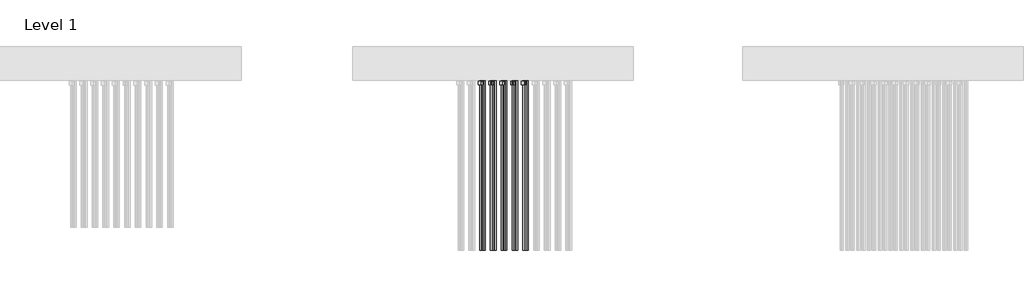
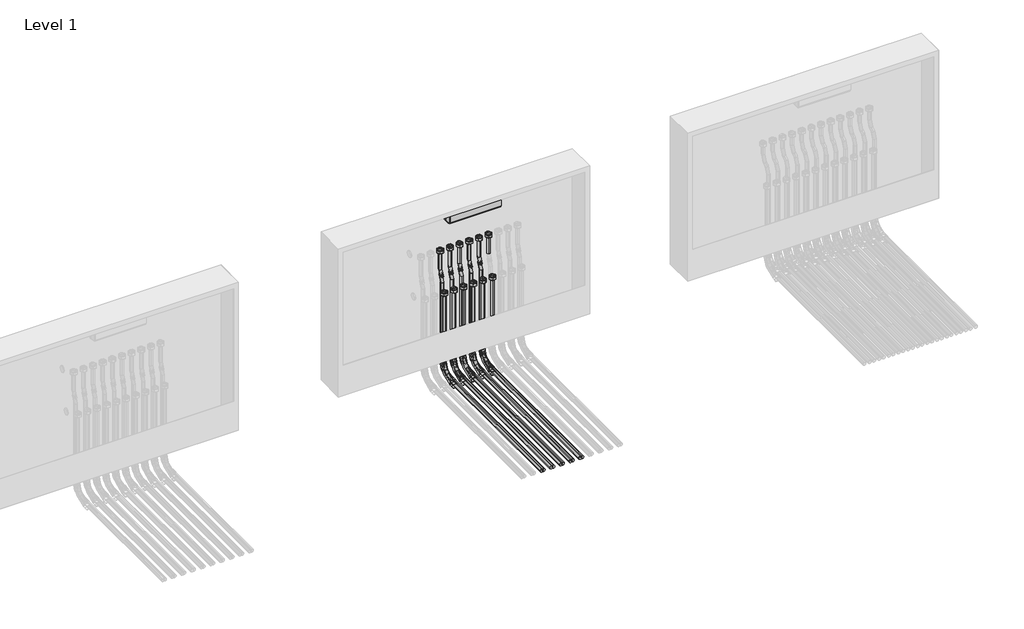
# One storey, part 12 of 15: 42 pipe fittings, 32 pipe segments, 1 proxy.
"""IFC4 building model written with IfcOpenShell, lengths in millimetres."""

from ifc_helpers import new_model, si_unit, point, frame, frame_2d, origin, place, context, project, spatial, circle_curve, trimmed, segment, composite_curve, outline, extrude, transform, mapped, element, save
from components import mechanical_equipment_387b3563, pipe_fitting_b05a7e06, pipe_fitting_27357a6d, pipe_fitting_daada113, pipe_fitting_3e503640

model = new_model("IFC4")

# Units and contexts
model_context = context("Model", 3, world=origin())
ifc_project = project(units=[si_unit("LENGTHUNIT", "METRE", prefix="MILLI")], contexts=[model_context])

# Site, building, storey
site = spatial("IfcSite", under=ifc_project)
building = spatial("IfcBuilding", under=site)
storey = spatial("IfcBuildingStorey", under=building, Name="Level 1", Elevation=0.0)

# Proxy
placement = place(None, origin())
mechanical_equipment_shape = mechanical_equipment_387b3563(model_context)
element("IfcBuildingElementProxy", 1, Name="USYSTEMS_Контроллер UH-6 230В1 : Контроллер UH-6 230В 2", ObjectType="USYSTEMS_Контроллер UH-6 230В1 : Контроллер UH-6 230В 2", at=placement, inside=storey, context=model_context, shape_type="MappedRepresentation", body=[
    mapped(mechanical_equipment_shape, transform((15172.5924746, 3891.6469543, 729.375), x_axis=(1.0, 0.0, 0.0), y_axis=(0.0, 1.0, 0.0), z_axis=(0.0, 0.0, 1.0))),
])

# Pipe fittings
pipe_fitting_shape = pipe_fitting_b05a7e06(model_context)
element("IfcPipeFitting", 2, ObjectType="USYSTEMS_УгловойФиксатор_Multi : Угловой фиксатор", at=placement, inside=storey, context=model_context, shape_type="MappedRepresentation", body=[
    mapped(pipe_fitting_shape, transform((15004.1980115, 3819.7097764, -114.3211479), x_axis=(0.0, 0.0, -1.0), y_axis=(0.0, -1.0, 0.0), z_axis=(-1.0, 0.0, 0.0))),
])
element("IfcPipeFitting", 3, ObjectType="USYSTEMS_УгловойФиксатор_Multi : Угловой фиксатор", at=placement, inside=storey, context=model_context, shape_type="MappedRepresentation", body=[
    mapped(pipe_fitting_shape, transform((15014.283768, 3855.7097764, -114.3211479), x_axis=(0.0, 0.0, -1.0), y_axis=(0.0, -1.0, 0.0), z_axis=(-1.0, 0.0, 0.0))),
])
element("IfcPipeFitting", 4, ObjectType="USYSTEMS_УгловойФиксатор_Multi : Угловой фиксатор", at=placement, inside=storey, context=model_context, shape_type="MappedRepresentation", body=[
    mapped(pipe_fitting_shape, transform((15054.1980115, 3819.7094543, -114.3211479), x_axis=(0.0, 0.0, -1.0), y_axis=(0.0, -1.0, 0.0), z_axis=(-1.0, 0.0, 0.0))),
])
element("IfcPipeFitting", 5, ObjectType="USYSTEMS_УгловойФиксатор_Multi : Угловой фиксатор", at=placement, inside=storey, context=model_context, shape_type="MappedRepresentation", body=[
    mapped(pipe_fitting_shape, transform((15064.283768, 3855.7097764, -114.3211479), x_axis=(0.0, 0.0, -1.0), y_axis=(0.0, -1.0, 0.0), z_axis=(-1.0, 0.0, 0.0))),
])
element("IfcPipeFitting", 6, ObjectType="USYSTEMS_УгловойФиксатор_Multi : Угловой фиксатор", at=placement, inside=storey, context=model_context, shape_type="MappedRepresentation", body=[
    mapped(pipe_fitting_shape, transform((15104.1980115, 3819.7097764, -114.3211479), x_axis=(0.0, 0.0, -1.0), y_axis=(0.0, -1.0, 0.0), z_axis=(-1.0, 0.0, 0.0))),
])
element("IfcPipeFitting", 7, ObjectType="USYSTEMS_УгловойФиксатор_Multi : Угловой фиксатор", at=placement, inside=storey, context=model_context, shape_type="MappedRepresentation", body=[
    mapped(pipe_fitting_shape, transform((15114.283768, 3855.7094543, -114.3211479), x_axis=(0.0, 0.0, -1.0), y_axis=(0.0, -1.0, 0.0), z_axis=(-1.0, 0.0, 0.0))),
])
element("IfcPipeFitting", 8, ObjectType="USYSTEMS_УгловойФиксатор_Multi : Угловой фиксатор", at=placement, inside=storey, context=model_context, shape_type="MappedRepresentation", body=[
    mapped(pipe_fitting_shape, transform((15154.1980115, 3819.7094543, -114.3211479), x_axis=(0.0, 0.0, -1.0), y_axis=(0.0, -1.0, 0.0), z_axis=(-1.0, 0.0, 0.0))),
])
element("IfcPipeFitting", 9, ObjectType="USYSTEMS_УгловойФиксатор_Multi : Угловой фиксатор", at=placement, inside=storey, context=model_context, shape_type="MappedRepresentation", body=[
    mapped(pipe_fitting_shape, transform((15164.283768, 3855.7097764, -114.3211479), x_axis=(0.0, 0.0, -1.0), y_axis=(0.0, -1.0, 0.0), z_axis=(-1.0, 0.0, 0.0))),
])
element("IfcPipeFitting", 10, ObjectType="USYSTEMS_УгловойФиксатор_Multi : Угловой фиксатор", at=placement, inside=storey, context=model_context, shape_type="MappedRepresentation", body=[
    mapped(pipe_fitting_shape, transform((15204.1980115, 3819.7097764, -114.3211479), x_axis=(0.0, 0.0, -1.0), y_axis=(0.0, -1.0, 0.0), z_axis=(-1.0, 0.0, 0.0))),
])
element("IfcPipeFitting", 11, ObjectType="USYSTEMS_УгловойФиксатор_Multi : Угловой фиксатор", at=placement, inside=storey, context=model_context, shape_type="MappedRepresentation", body=[
    mapped(pipe_fitting_shape, transform((15214.283768, 3855.7094543, -114.3211479), x_axis=(0.0, 0.0, -1.0), y_axis=(0.0, -1.0, 0.0), z_axis=(-1.0, 0.0, 0.0))),
])
pipe_fitting_2_shape = pipe_fitting_27357a6d(model_context)
element("IfcPipeFitting", 12, ObjectType="USYSTEMS_Штуцер с внутренней резьбой_FlexX_PEX : 16x2,0 x 3/4\" ВР Евроконус", at=placement, inside=storey, context=model_context, shape_type="MappedRepresentation", body=[
    mapped(pipe_fitting_2_shape, transform((15004.1980115, 3819.7099144, 328.3084133), x_axis=(0.0, 0.0, 1.0), y_axis=(0.0, 1.0, 0.0), z_axis=(-1.0, 0.0, 0.0))),
])
element("IfcPipeFitting", 13, ObjectType="USYSTEMS_Штуцер с внутренней резьбой_FlexX_PEX : 16x2,0 x 3/4\" ВР Евроконус", at=placement, inside=storey, context=model_context, shape_type="MappedRepresentation", body=[
    mapped(pipe_fitting_2_shape, transform((15004.1980115, 3855.7099144, 538.3084133), x_axis=(0.0, 0.0, 1.0), y_axis=(0.0, 1.0, 0.0), z_axis=(-1.0, 0.0, 0.0))),
])
element("IfcPipeFitting", 14, ObjectType="USYSTEMS_Штуцер с внутренней резьбой_FlexX_PEX : 16x2,0 x 3/4\" ВР Евроконус", at=placement, inside=storey, context=model_context, shape_type="MappedRepresentation", body=[
    mapped(pipe_fitting_2_shape, transform((15054.1980115, 3819.7099144, 328.3084133), x_axis=(0.0, 0.0, 1.0), y_axis=(0.0, 1.0, 0.0), z_axis=(-1.0, 0.0, 0.0))),
])
element("IfcPipeFitting", 15, ObjectType="USYSTEMS_Штуцер с внутренней резьбой_FlexX_PEX : 16x2,0 x 3/4\" ВР Евроконус", at=placement, inside=storey, context=model_context, shape_type="MappedRepresentation", body=[
    mapped(pipe_fitting_2_shape, transform((15054.1980115, 3855.7099144, 538.3084133), x_axis=(0.0, 0.0, 1.0), y_axis=(0.0, 1.0, 0.0), z_axis=(-1.0, 0.0, 0.0))),
])
element("IfcPipeFitting", 16, ObjectType="USYSTEMS_Штуцер с внутренней резьбой_FlexX_PEX : 16x2,0 x 3/4\" ВР Евроконус", at=placement, inside=storey, context=model_context, shape_type="MappedRepresentation", body=[
    mapped(pipe_fitting_2_shape, transform((15104.1980115, 3819.7099144, 328.3084133), x_axis=(0.0, 0.0, 1.0), y_axis=(0.0, 1.0, 0.0), z_axis=(-1.0, 0.0, 0.0))),
])
element("IfcPipeFitting", 17, ObjectType="USYSTEMS_Штуцер с внутренней резьбой_FlexX_PEX : 16x2,0 x 3/4\" ВР Евроконус", at=placement, inside=storey, context=model_context, shape_type="MappedRepresentation", body=[
    mapped(pipe_fitting_2_shape, transform((15104.1980115, 3855.7099144, 538.3084133), x_axis=(0.0, 0.0, 1.0), y_axis=(0.0, 1.0, 0.0), z_axis=(-1.0, 0.0, 0.0))),
])
element("IfcPipeFitting", 18, ObjectType="USYSTEMS_Штуцер с внутренней резьбой_FlexX_PEX : 16x2,0 x 3/4\" ВР Евроконус", at=placement, inside=storey, context=model_context, shape_type="MappedRepresentation", body=[
    mapped(pipe_fitting_2_shape, transform((15154.1980115, 3819.7099144, 328.3084133), x_axis=(0.0, 0.0, 1.0), y_axis=(0.0, 1.0, 0.0), z_axis=(-1.0, 0.0, 0.0))),
])
element("IfcPipeFitting", 19, ObjectType="USYSTEMS_Штуцер с внутренней резьбой_FlexX_PEX : 16x2,0 x 3/4\" ВР Евроконус", at=placement, inside=storey, context=model_context, shape_type="MappedRepresentation", body=[
    mapped(pipe_fitting_2_shape, transform((15154.1980115, 3855.7099144, 538.3084133), x_axis=(0.0, 0.0, 1.0), y_axis=(0.0, 1.0, 0.0), z_axis=(-1.0, 0.0, 0.0))),
])
element("IfcPipeFitting", 20, ObjectType="USYSTEMS_Штуцер с внутренней резьбой_FlexX_PEX : 16x2,0 x 3/4\" ВР Евроконус", at=placement, inside=storey, context=model_context, shape_type="MappedRepresentation", body=[
    mapped(pipe_fitting_2_shape, transform((15204.1980115, 3819.7099144, 328.3084133), x_axis=(0.0, 0.0, 1.0), y_axis=(0.0, 1.0, 0.0), z_axis=(-1.0, 0.0, 0.0))),
])
element("IfcPipeFitting", 21, ObjectType="USYSTEMS_Штуцер с внутренней резьбой_FlexX_PEX : 16x2,0 x 3/4\" ВР Евроконус", at=placement, inside=storey, context=model_context, shape_type="MappedRepresentation", body=[
    mapped(pipe_fitting_2_shape, transform((15204.1980115, 3855.7099144, 538.3084133), x_axis=(0.0, 0.0, 1.0), y_axis=(0.0, 1.0, 0.0), z_axis=(-1.0, 0.0, 0.0))),
])
element("IfcPipeFitting", 22, ObjectType="USYSTEMS_Штуцер с внутренней резьбой_FlexX_PEX : 16x2,0 x 3/4\" ВР Евроконус", at=placement, inside=storey, context=model_context, shape_type="MappedRepresentation", body=[
    mapped(pipe_fitting_2_shape, transform((15254.1980115, 3819.7099144, 328.3084133), x_axis=(0.0, 0.0, 1.0), y_axis=(0.0, 1.0, 0.0), z_axis=(-1.0, 0.0, 0.0))),
])
element("IfcPipeFitting", 23, ObjectType="USYSTEMS_Штуцер с внутренней резьбой_FlexX_PEX : 16x2,0 x 3/4\" ВР Евроконус", at=placement, inside=storey, context=model_context, shape_type="MappedRepresentation", body=[
    mapped(pipe_fitting_2_shape, transform((15254.1980115, 3855.7099144, 538.3084133), x_axis=(0.0, 0.0, 1.0), y_axis=(0.0, 1.0, 0.0), z_axis=(-1.0, 0.0, 0.0))),
])
pipe_fitting_3_shape = pipe_fitting_daada113(model_context)
element("IfcPipeFitting", 24, ObjectType="USYSTEMS_Гнутая труба_Radi Pipe : PN 6 в бухтах", at=placement, inside=storey, context=model_context, shape_type="MappedRepresentation", body=[
    mapped(pipe_fitting_3_shape, transform((15004.1980115, 3855.7096864, 414.5388211), x_axis=(0.0, 0.0, -1.0), y_axis=(1.0, 0.0, 0.0), z_axis=(0.0, -1.0, 0.0))),
])
element("IfcPipeFitting", 25, ObjectType="USYSTEMS_Гнутая труба_Radi Pipe : PN 6 в бухтах", at=placement, inside=storey, context=model_context, shape_type="MappedRepresentation", body=[
    mapped(pipe_fitting_3_shape, transform((15014.283768, 3855.7097764, 388.2645272), x_axis=(0.3583679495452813, 0.0, -0.9335804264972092), y_axis=(-0.9335804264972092, 0.0, -0.3583679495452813), z_axis=(0.0, 1.0, 0.0))),
])
element("IfcPipeFitting", 26, ObjectType="USYSTEMS_Гнутая труба_Radi Pipe : PN 6 в бухтах", at=placement, inside=storey, context=model_context, shape_type="MappedRepresentation", body=[
    mapped(pipe_fitting_3_shape, transform((15054.1980115, 3855.7096864, 414.5388211), x_axis=(0.0, 0.0, -1.0), y_axis=(1.0, 0.0, 0.0), z_axis=(0.0, -1.0, 0.0))),
])
element("IfcPipeFitting", 27, ObjectType="USYSTEMS_Гнутая труба_Radi Pipe : PN 6 в бухтах", at=placement, inside=storey, context=model_context, shape_type="MappedRepresentation", body=[
    mapped(pipe_fitting_3_shape, transform((15064.283768, 3855.7097764, 388.2645272), x_axis=(0.3583679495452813, 0.0, -0.9335804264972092), y_axis=(-0.9335804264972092, 0.0, -0.3583679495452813), z_axis=(0.0, 1.0, 0.0))),
])
element("IfcPipeFitting", 28, ObjectType="USYSTEMS_Гнутая труба_Radi Pipe : PN 6 в бухтах", at=placement, inside=storey, context=model_context, shape_type="MappedRepresentation", body=[
    mapped(pipe_fitting_3_shape, transform((15104.1980115, 3855.7091545, 414.5388211), x_axis=(0.0, 0.0, -1.0), y_axis=(1.0, 0.0, 0.0), z_axis=(0.0, -1.0, 0.0))),
])
element("IfcPipeFitting", 29, ObjectType="USYSTEMS_Гнутая труба_Radi Pipe : PN 6 в бухтах", at=placement, inside=storey, context=model_context, shape_type="MappedRepresentation", body=[
    mapped(pipe_fitting_3_shape, transform((15114.283768, 3855.7094543, 388.2645272), x_axis=(0.3583679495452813, 0.0, -0.9335804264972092), y_axis=(-0.9335804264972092, 0.0, -0.3583679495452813), z_axis=(0.0, 1.0, 0.0))),
])
element("IfcPipeFitting", 30, ObjectType="USYSTEMS_Гнутая труба_Radi Pipe : PN 6 в бухтах", at=placement, inside=storey, context=model_context, shape_type="MappedRepresentation", body=[
    mapped(pipe_fitting_3_shape, transform((15154.1980115, 3855.7096864, 414.5388211), x_axis=(0.0, 0.0, -1.0), y_axis=(1.0, 0.0, 0.0), z_axis=(0.0, -1.0, 0.0))),
])
element("IfcPipeFitting", 31, ObjectType="USYSTEMS_Гнутая труба_Radi Pipe : PN 6 в бухтах", at=placement, inside=storey, context=model_context, shape_type="MappedRepresentation", body=[
    mapped(pipe_fitting_3_shape, transform((15164.283768, 3855.7097764, 388.2645272), x_axis=(0.3583679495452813, 0.0, -0.9335804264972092), y_axis=(-0.9335804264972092, 0.0, -0.3583679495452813), z_axis=(0.0, 1.0, 0.0))),
])
element("IfcPipeFitting", 32, ObjectType="USYSTEMS_Гнутая труба_Radi Pipe : PN 6 в бухтах", at=placement, inside=storey, context=model_context, shape_type="MappedRepresentation", body=[
    mapped(pipe_fitting_3_shape, transform((15204.1980115, 3855.7091545, 414.5388211), x_axis=(0.0, 0.0, -1.0), y_axis=(1.0, 0.0, 0.0), z_axis=(0.0, -1.0, 0.0))),
])
element("IfcPipeFitting", 33, ObjectType="USYSTEMS_Гнутая труба_Radi Pipe : PN 6 в бухтах", at=placement, inside=storey, context=model_context, shape_type="MappedRepresentation", body=[
    mapped(pipe_fitting_3_shape, transform((15214.283768, 3855.7094543, 388.2645272), x_axis=(0.3583679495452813, 0.0, -0.9335804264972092), y_axis=(-0.9335804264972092, 0.0, -0.3583679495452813), z_axis=(0.0, 1.0, 0.0))),
])
pipe_fitting_4_shape = pipe_fitting_3e503640(model_context)
element("IfcPipeFitting", 34, ObjectType="USYSTEMS_Гнутая труба_Radi Pipe : PN 6 в бухтах_С фиксатором", at=placement, inside=storey, context=model_context, shape_type="MappedRepresentation", body=[
    mapped(pipe_fitting_4_shape, transform((15004.1980115, 3819.7097764, -114.3211479), x_axis=(0.0, 0.0, -1.0), y_axis=(0.0, -1.0, 0.0), z_axis=(-1.0, 0.0, 0.0))),
])
element("IfcPipeFitting", 35, ObjectType="USYSTEMS_Гнутая труба_Radi Pipe : PN 6 в бухтах_С фиксатором", at=placement, inside=storey, context=model_context, shape_type="MappedRepresentation", body=[
    mapped(pipe_fitting_4_shape, transform((15014.283768, 3855.7097764, -114.3211479), x_axis=(0.0, 0.0, -1.0), y_axis=(0.0, -1.0, 0.0), z_axis=(-1.0, 0.0, 0.0))),
])
element("IfcPipeFitting", 36, ObjectType="USYSTEMS_Гнутая труба_Radi Pipe : PN 6 в бухтах_С фиксатором", at=placement, inside=storey, context=model_context, shape_type="MappedRepresentation", body=[
    mapped(pipe_fitting_4_shape, transform((15054.1980115, 3819.7094543, -114.3211479), x_axis=(0.0, 0.0, -1.0), y_axis=(0.0, -1.0, 0.0), z_axis=(-1.0, 0.0, 0.0))),
])
element("IfcPipeFitting", 37, ObjectType="USYSTEMS_Гнутая труба_Radi Pipe : PN 6 в бухтах_С фиксатором", at=placement, inside=storey, context=model_context, shape_type="MappedRepresentation", body=[
    mapped(pipe_fitting_4_shape, transform((15064.283768, 3855.7097764, -114.3211479), x_axis=(0.0, 0.0, -1.0), y_axis=(0.0, -1.0, 0.0), z_axis=(-1.0, 0.0, 0.0))),
])
element("IfcPipeFitting", 38, ObjectType="USYSTEMS_Гнутая труба_Radi Pipe : PN 6 в бухтах_С фиксатором", at=placement, inside=storey, context=model_context, shape_type="MappedRepresentation", body=[
    mapped(pipe_fitting_4_shape, transform((15104.1980115, 3819.7097764, -114.3211479), x_axis=(0.0, 0.0, -1.0), y_axis=(0.0, -1.0, 0.0), z_axis=(-1.0, 0.0, 0.0))),
])
element("IfcPipeFitting", 39, ObjectType="USYSTEMS_Гнутая труба_Radi Pipe : PN 6 в бухтах_С фиксатором", at=placement, inside=storey, context=model_context, shape_type="MappedRepresentation", body=[
    mapped(pipe_fitting_4_shape, transform((15114.283768, 3855.7094543, -114.3211479), x_axis=(0.0, 0.0, -1.0), y_axis=(0.0, -1.0, 0.0), z_axis=(-1.0, 0.0, 0.0))),
])
element("IfcPipeFitting", 40, ObjectType="USYSTEMS_Гнутая труба_Radi Pipe : PN 6 в бухтах_С фиксатором", at=placement, inside=storey, context=model_context, shape_type="MappedRepresentation", body=[
    mapped(pipe_fitting_4_shape, transform((15154.1980115, 3819.7094543, -114.3211479), x_axis=(0.0, 0.0, -1.0), y_axis=(0.0, -1.0, 0.0), z_axis=(-1.0, 0.0, 0.0))),
])
element("IfcPipeFitting", 41, ObjectType="USYSTEMS_Гнутая труба_Radi Pipe : PN 6 в бухтах_С фиксатором", at=placement, inside=storey, context=model_context, shape_type="MappedRepresentation", body=[
    mapped(pipe_fitting_4_shape, transform((15164.283768, 3855.7097764, -114.3211479), x_axis=(0.0, 0.0, -1.0), y_axis=(0.0, -1.0, 0.0), z_axis=(-1.0, 0.0, 0.0))),
])
element("IfcPipeFitting", 42, ObjectType="USYSTEMS_Гнутая труба_Radi Pipe : PN 6 в бухтах_С фиксатором", at=placement, inside=storey, context=model_context, shape_type="MappedRepresentation", body=[
    mapped(pipe_fitting_4_shape, transform((15204.1980115, 3819.7097764, -114.3211479), x_axis=(0.0, 0.0, -1.0), y_axis=(0.0, -1.0, 0.0), z_axis=(-1.0, 0.0, 0.0))),
])
element("IfcPipeFitting", 43, ObjectType="USYSTEMS_Гнутая труба_Radi Pipe : PN 6 в бухтах_С фиксатором", at=placement, inside=storey, context=model_context, shape_type="MappedRepresentation", body=[
    mapped(pipe_fitting_4_shape, transform((15214.283768, 3855.7094543, -114.3211479), x_axis=(0.0, 0.0, -1.0), y_axis=(0.0, -1.0, 0.0), z_axis=(-1.0, 0.0, 0.0))),
])

# Pipe segments
element("IfcPipeSegment", 44, ObjectType="USYSTEMS труба Radi Pipe белая PN6", at=placement, inside=storey, context=model_context, shape_type="SweptSolid", body=[
    extrude(outline(composite_curve([segment(trimmed(circle_curve(frame_2d((0.0, -8.0)), 8.0), [point((-8.0, -8.0))], [point((0.0, 0.0))], False, "CARTESIAN"), True, "CONTINUOUS"), segment(trimmed(circle_curve(frame_2d((0.0, -8.0)), 8.0), [point((0.0, 0.0))], [point((8.0, -8.0))], False, "CARTESIAN"), True, "CONTINUOUS"), segment(trimmed(circle_curve(frame_2d((0.0, -8.0)), 8.0), [point((8.0, -8.0))], [point((0.0, -16.0))], False, "CARTESIAN"), True, "CONTINUOUS"), segment(trimmed(circle_curve(frame_2d((0.0, -8.0)), 8.0), [point((0.0, -16.0))], [point((-8.0, -8.0))], False, "CARTESIAN"), True, "CONTINUOUS")], self_intersect=False)), frame((15004.1980115, 3811.7097764, -43.3211449), z_axis=(0.0, 3.724502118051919e-07, 0.9999999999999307), x_axis=(-1.0, 0.0, 0.0)), (0.0, 0.0, 1.0), 370.6295612),
])
element("IfcPipeSegment", 45, ObjectType="USYSTEMS труба Radi Pipe белая PN6", at=placement, inside=storey, context=model_context, shape_type="SweptSolid", body=[
    extrude(outline(composite_curve([segment(trimmed(circle_curve(frame_2d((0.0, -8.0)), 8.0), [point((-8.0, -8.0))], [point((0.0, 0.0))], False, "CARTESIAN"), True, "CONTINUOUS"), segment(trimmed(circle_curve(frame_2d((0.0, -8.0)), 8.0), [point((0.0, 0.0))], [point((8.0, -8.0))], False, "CARTESIAN"), True, "CONTINUOUS"), segment(trimmed(circle_curve(frame_2d((0.0, -8.0)), 8.0), [point((8.0, -8.0))], [point((0.0, -16.0))], False, "CARTESIAN"), True, "CONTINUOUS"), segment(trimmed(circle_curve(frame_2d((0.0, -8.0)), 8.0), [point((0.0, -16.0))], [point((-8.0, -8.0))], False, "CARTESIAN"), True, "CONTINUOUS")], self_intersect=False)), frame((15004.1980115, 3847.7096864, 438.2622373), z_axis=(0.0, 2.3018406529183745e-06, 0.9999999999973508), x_axis=(-1.0, 0.0, 0.0)), (0.0, 0.0, 1.0), 99.0461944),
])
element("IfcPipeSegment", 46, ObjectType="USYSTEMS труба Radi Pipe белая PN6", at=placement, inside=storey, context=model_context, shape_type="SweptSolid", body=[
    extrude(outline(composite_curve([segment(trimmed(circle_curve(frame_2d((0.0, 8.0)), 8.0), [point((0.0001114, 16.0))], [point((8.0, 7.9998886))], False, "CARTESIAN"), True, "CONTINUOUS"), segment(trimmed(circle_curve(frame_2d((0.0, 8.0)), 8.0), [point((8.0, 7.9998886))], [point((-0.0001114, 0.0))], False, "CARTESIAN"), True, "CONTINUOUS"), segment(trimmed(circle_curve(frame_2d((0.0, 8.0)), 8.0), [point((-0.0001114, 0.0))], [point((-8.0, 8.0001115))], False, "CARTESIAN"), True, "CONTINUOUS"), segment(trimmed(circle_curve(frame_2d((0.0, 8.0)), 8.0), [point((-8.0, 8.0001115))], [point((0.0001114, 16.0))], False, "CARTESIAN"), True, "CONTINUOUS")], self_intersect=False)), frame((15012.6997169, 3847.7096864, 392.3911613), z_axis=(-0.358367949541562, 4.659715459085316e-06, 0.933580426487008), x_axis=(0.9335804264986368, 1.7886971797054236e-06, 0.35836794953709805)), (0.0, 0.0, 1.0), 19.3032171),
])
element("IfcPipeSegment", 47, ObjectType="USYSTEMS труба Radi Pipe белая PN6", at=placement, inside=storey, context=model_context, shape_type="SweptSolid", body=[
    extrude(outline(composite_curve([segment(trimmed(circle_curve(frame_2d((15014.283768, 3855.7097764)), 8.0), [point((15022.283768, 3855.7097764))], [point((15014.283768, 3847.7097764))], False, "CARTESIAN"), True, "CONTINUOUS"), segment(trimmed(circle_curve(frame_2d((15014.283768, 3855.7097764)), 8.0), [point((15014.283768, 3847.7097764))], [point((15006.283768, 3855.7097764))], False, "CARTESIAN"), True, "CONTINUOUS"), segment(trimmed(circle_curve(frame_2d((15014.283768, 3855.7097764)), 8.0), [point((15006.283768, 3855.7097764))], [point((15014.283768, 3863.7097764))], False, "CARTESIAN"), True, "CONTINUOUS"), segment(trimmed(circle_curve(frame_2d((15014.283768, 3855.7097764)), 8.0), [point((15014.283768, 3863.7097764))], [point((15022.283768, 3855.7097764))], False, "CARTESIAN"), True, "CONTINUOUS")], self_intersect=False)), frame((0.0, 0.0, -43.3211479), z_axis=(0.0, 0.0, 1.0), x_axis=(1.0, 0.0, 0.0)), (0.0, 0.0, 1.0), 407.8622774),
])
element("IfcPipeSegment", 48, ObjectType="USYSTEMS труба Radi Pipe белая PN6", at=placement, inside=storey, context=model_context, shape_type="SweptSolid", body=[
    extrude(outline(composite_curve([segment(trimmed(circle_curve(frame_2d((-114.3211479, 15004.1980115)), 8.0), [point((-114.3211479, 14996.1980115))], [point((-122.3211479, 15004.1980115))], False, "CARTESIAN"), True, "CONTINUOUS"), segment(trimmed(circle_curve(frame_2d((-114.3211479, 15004.1980115)), 8.0), [point((-122.3211479, 15004.1980115))], [point((-114.3211479, 15012.1980115))], False, "CARTESIAN"), True, "CONTINUOUS"), segment(trimmed(circle_curve(frame_2d((-114.3211479, 15004.1980115)), 8.0), [point((-114.3211479, 15012.1980115))], [point((-106.3211479, 15004.1980115))], False, "CARTESIAN"), True, "CONTINUOUS"), segment(trimmed(circle_curve(frame_2d((-114.3211479, 15004.1980115)), 8.0), [point((-106.3211479, 15004.1980115))], [point((-114.3211479, 14996.1980115))], False, "CARTESIAN"), True, "CONTINUOUS")], self_intersect=False)), frame((0.0, 2946.5844543, 0.0), z_axis=(0.0, 1.0, 0.0), x_axis=(0.0, 0.0, 1.0)), (0.0, 0.0, 1.0), 802.1253221),
])
element("IfcPipeSegment", 49, ObjectType="USYSTEMS труба Radi Pipe белая PN6", at=placement, inside=storey, context=model_context, shape_type="SweptSolid", body=[
    extrude(outline(composite_curve([segment(trimmed(circle_curve(frame_2d((-114.3211479, 15014.283768)), 8.0), [point((-114.3211479, 15006.283768))], [point((-122.3211479, 15014.283768))], False, "CARTESIAN"), True, "CONTINUOUS"), segment(trimmed(circle_curve(frame_2d((-114.3211479, 15014.283768)), 8.0), [point((-122.3211479, 15014.283768))], [point((-114.3211479, 15022.283768))], False, "CARTESIAN"), True, "CONTINUOUS"), segment(trimmed(circle_curve(frame_2d((-114.3211479, 15014.283768)), 8.0), [point((-114.3211479, 15022.283768))], [point((-106.3211479, 15014.283768))], False, "CARTESIAN"), True, "CONTINUOUS"), segment(trimmed(circle_curve(frame_2d((-114.3211479, 15014.283768)), 8.0), [point((-106.3211479, 15014.283768))], [point((-114.3211479, 15006.283768))], False, "CARTESIAN"), True, "CONTINUOUS")], self_intersect=False)), frame((0.0, 2946.5844543, 0.0), z_axis=(0.0, 1.0, 0.0), x_axis=(0.0, 0.0, 1.0)), (0.0, 0.0, 1.0), 838.1253221),
])
element("IfcPipeSegment", 50, ObjectType="USYSTEMS труба Radi Pipe белая PN6", at=placement, inside=storey, context=model_context, shape_type="SweptSolid", body=[
    extrude(outline(composite_curve([segment(trimmed(circle_curve(frame_2d((0.0, -8.0)), 8.0), [point((-8.0, -8.0))], [point((0.0, 0.0))], False, "CARTESIAN"), True, "CONTINUOUS"), segment(trimmed(circle_curve(frame_2d((0.0, -8.0)), 8.0), [point((0.0, 0.0))], [point((8.0, -8.0))], False, "CARTESIAN"), True, "CONTINUOUS"), segment(trimmed(circle_curve(frame_2d((0.0, -8.0)), 8.0), [point((8.0, -8.0))], [point((0.0, -16.0))], False, "CARTESIAN"), True, "CONTINUOUS"), segment(trimmed(circle_curve(frame_2d((0.0, -8.0)), 8.0), [point((0.0, -16.0))], [point((-8.0, -8.0))], False, "CARTESIAN"), True, "CONTINUOUS")], self_intersect=False)), frame((15054.1980115, 3811.7094543, -43.321138), z_axis=(0.0, 1.241500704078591e-06, 0.9999999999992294), x_axis=(-1.0, 0.0, 0.0)), (0.0, 0.0, 1.0), 370.6295612),
])
element("IfcPipeSegment", 51, ObjectType="USYSTEMS труба Radi Pipe белая PN6", at=placement, inside=storey, context=model_context, shape_type="SweptSolid", body=[
    extrude(outline(composite_curve([segment(trimmed(circle_curve(frame_2d((0.0, -8.0)), 8.0), [point((-8.0, -8.0))], [point((0.0, 0.0))], False, "CARTESIAN"), True, "CONTINUOUS"), segment(trimmed(circle_curve(frame_2d((0.0, -8.0)), 8.0), [point((0.0, 0.0))], [point((8.0, -8.0))], False, "CARTESIAN"), True, "CONTINUOUS"), segment(trimmed(circle_curve(frame_2d((0.0, -8.0)), 8.0), [point((8.0, -8.0))], [point((0.0, -16.0))], False, "CARTESIAN"), True, "CONTINUOUS"), segment(trimmed(circle_curve(frame_2d((0.0, -8.0)), 8.0), [point((0.0, -16.0))], [point((-8.0, -8.0))], False, "CARTESIAN"), True, "CONTINUOUS")], self_intersect=False)), frame((15054.1980115, 3847.7096864, 438.2622373), z_axis=(0.0, 2.3018406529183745e-06, 0.9999999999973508), x_axis=(-1.0, 0.0, 0.0)), (0.0, 0.0, 1.0), 99.0461944),
])
element("IfcPipeSegment", 52, ObjectType="USYSTEMS труба Radi Pipe белая PN6", at=placement, inside=storey, context=model_context, shape_type="SweptSolid", body=[
    extrude(outline(composite_curve([segment(trimmed(circle_curve(frame_2d((0.0, 8.0)), 8.0), [point((0.0001114, 16.0))], [point((8.0, 7.9998886))], False, "CARTESIAN"), True, "CONTINUOUS"), segment(trimmed(circle_curve(frame_2d((0.0, 8.0)), 8.0), [point((8.0, 7.9998886))], [point((-0.0001114, 0.0))], False, "CARTESIAN"), True, "CONTINUOUS"), segment(trimmed(circle_curve(frame_2d((0.0, 8.0)), 8.0), [point((-0.0001114, 0.0))], [point((-8.0, 8.0001115))], False, "CARTESIAN"), True, "CONTINUOUS"), segment(trimmed(circle_curve(frame_2d((0.0, 8.0)), 8.0), [point((-8.0, 8.0001115))], [point((0.0001114, 16.0))], False, "CARTESIAN"), True, "CONTINUOUS")], self_intersect=False)), frame((15062.6997169, 3847.7096864, 392.3911613), z_axis=(-0.358367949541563, 4.659715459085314e-06, 0.9335804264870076), x_axis=(0.9335804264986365, 1.788697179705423e-06, 0.35836794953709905)), (0.0, 0.0, 1.0), 19.3032171),
])
element("IfcPipeSegment", 53, ObjectType="USYSTEMS труба Radi Pipe белая PN6", at=placement, inside=storey, context=model_context, shape_type="SweptSolid", body=[
    extrude(outline(composite_curve([segment(trimmed(circle_curve(frame_2d((15064.283768, 3855.7097764)), 8.0), [point((15072.283768, 3855.7097764))], [point((15064.283768, 3847.7097764))], False, "CARTESIAN"), True, "CONTINUOUS"), segment(trimmed(circle_curve(frame_2d((15064.283768, 3855.7097764)), 8.0), [point((15064.283768, 3847.7097764))], [point((15056.283768, 3855.7097764))], False, "CARTESIAN"), True, "CONTINUOUS"), segment(trimmed(circle_curve(frame_2d((15064.283768, 3855.7097764)), 8.0), [point((15056.283768, 3855.7097764))], [point((15064.283768, 3863.7097764))], False, "CARTESIAN"), True, "CONTINUOUS"), segment(trimmed(circle_curve(frame_2d((15064.283768, 3855.7097764)), 8.0), [point((15064.283768, 3863.7097764))], [point((15072.283768, 3855.7097764))], False, "CARTESIAN"), True, "CONTINUOUS")], self_intersect=False)), frame((0.0, 0.0, -43.3211479), z_axis=(0.0, 0.0, 1.0), x_axis=(1.0, 0.0, 0.0)), (0.0, 0.0, 1.0), 407.8622774),
])
element("IfcPipeSegment", 54, ObjectType="USYSTEMS труба Radi Pipe белая PN6", at=placement, inside=storey, context=model_context, shape_type="SweptSolid", body=[
    extrude(outline(composite_curve([segment(trimmed(circle_curve(frame_2d((-114.3211479, 15054.1980115)), 8.0), [point((-114.3211479, 15046.1980115))], [point((-122.3211479, 15054.1980115))], False, "CARTESIAN"), True, "CONTINUOUS"), segment(trimmed(circle_curve(frame_2d((-114.3211479, 15054.1980115)), 8.0), [point((-122.3211479, 15054.1980115))], [point((-114.3211479, 15062.1980115))], False, "CARTESIAN"), True, "CONTINUOUS"), segment(trimmed(circle_curve(frame_2d((-114.3211479, 15054.1980115)), 8.0), [point((-114.3211479, 15062.1980115))], [point((-106.3211479, 15054.1980115))], False, "CARTESIAN"), True, "CONTINUOUS"), segment(trimmed(circle_curve(frame_2d((-114.3211479, 15054.1980115)), 8.0), [point((-106.3211479, 15054.1980115))], [point((-114.3211479, 15046.1980115))], False, "CARTESIAN"), True, "CONTINUOUS")], self_intersect=False)), frame((0.0, 2946.5844543, 0.0), z_axis=(0.0, 1.0, 0.0), x_axis=(0.0, 0.0, 1.0)), (0.0, 0.0, 1.0), 802.125),
])
element("IfcPipeSegment", 55, ObjectType="USYSTEMS труба Radi Pipe белая PN6", at=placement, inside=storey, context=model_context, shape_type="SweptSolid", body=[
    extrude(outline(composite_curve([segment(trimmed(circle_curve(frame_2d((-114.3211479, 15064.283768)), 8.0), [point((-114.3211479, 15056.283768))], [point((-122.3211479, 15064.283768))], False, "CARTESIAN"), True, "CONTINUOUS"), segment(trimmed(circle_curve(frame_2d((-114.3211479, 15064.283768)), 8.0), [point((-122.3211479, 15064.283768))], [point((-114.3211479, 15072.283768))], False, "CARTESIAN"), True, "CONTINUOUS"), segment(trimmed(circle_curve(frame_2d((-114.3211479, 15064.283768)), 8.0), [point((-114.3211479, 15072.283768))], [point((-106.3211479, 15064.283768))], False, "CARTESIAN"), True, "CONTINUOUS"), segment(trimmed(circle_curve(frame_2d((-114.3211479, 15064.283768)), 8.0), [point((-106.3211479, 15064.283768))], [point((-114.3211479, 15056.283768))], False, "CARTESIAN"), True, "CONTINUOUS")], self_intersect=False)), frame((0.0, 2946.5844543, 0.0), z_axis=(0.0, 1.0, 0.0), x_axis=(0.0, 0.0, 1.0)), (0.0, 0.0, 1.0), 838.1253221),
])
element("IfcPipeSegment", 56, ObjectType="USYSTEMS труба Radi Pipe белая PN6", at=placement, inside=storey, context=model_context, shape_type="SweptSolid", body=[
    extrude(outline(composite_curve([segment(trimmed(circle_curve(frame_2d((0.0, -8.0)), 8.0), [point((-8.0, -8.0))], [point((0.0, 0.0))], False, "CARTESIAN"), True, "CONTINUOUS"), segment(trimmed(circle_curve(frame_2d((0.0, -8.0)), 8.0), [point((0.0, 0.0))], [point((8.0, -8.0))], False, "CARTESIAN"), True, "CONTINUOUS"), segment(trimmed(circle_curve(frame_2d((0.0, -8.0)), 8.0), [point((8.0, -8.0))], [point((0.0, -16.0))], False, "CARTESIAN"), True, "CONTINUOUS"), segment(trimmed(circle_curve(frame_2d((0.0, -8.0)), 8.0), [point((0.0, -16.0))], [point((-8.0, -8.0))], False, "CARTESIAN"), True, "CONTINUOUS")], self_intersect=False)), frame((15104.1980115, 3811.7097764, -43.3211449), z_axis=(0.0, 3.724502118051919e-07, 0.9999999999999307), x_axis=(-1.0, 0.0, 0.0)), (0.0, 0.0, 1.0), 370.6295612),
])
element("IfcPipeSegment", 57, ObjectType="USYSTEMS труба Radi Pipe белая PN6", at=placement, inside=storey, context=model_context, shape_type="SweptSolid", body=[
    extrude(outline(composite_curve([segment(trimmed(circle_curve(frame_2d((0.0, -8.0)), 8.0), [point((-8.0, -8.0))], [point((0.0, 0.0))], False, "CARTESIAN"), True, "CONTINUOUS"), segment(trimmed(circle_curve(frame_2d((0.0, -8.0)), 8.0), [point((0.0, 0.0))], [point((8.0, -8.0))], False, "CARTESIAN"), True, "CONTINUOUS"), segment(trimmed(circle_curve(frame_2d((0.0, -8.0)), 8.0), [point((8.0, -8.0))], [point((0.0, -16.0))], False, "CARTESIAN"), True, "CONTINUOUS"), segment(trimmed(circle_curve(frame_2d((0.0, -8.0)), 8.0), [point((0.0, -16.0))], [point((-8.0, -8.0))], False, "CARTESIAN"), True, "CONTINUOUS")], self_intersect=False)), frame((15104.1980115, 3847.7091545, 438.2622802), z_axis=(0.0, 7.672802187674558e-06, 0.9999999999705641), x_axis=(-1.0, 0.0, 0.0)), (0.0, 0.0, 1.0), 99.0461944),
])
element("IfcPipeSegment", 58, ObjectType="USYSTEMS труба Radi Pipe белая PN6", at=placement, inside=storey, context=model_context, shape_type="SweptSolid", body=[
    extrude(outline(composite_curve([segment(trimmed(circle_curve(frame_2d((0.0, 8.0)), 8.0), [point((0.0003714, 16.0))], [point((8.0, 7.9996286))], False, "CARTESIAN"), True, "CONTINUOUS"), segment(trimmed(circle_curve(frame_2d((0.0, 8.0)), 8.0), [point((8.0, 7.9996286))], [point((-0.0003714, 0.0))], False, "CARTESIAN"), True, "CONTINUOUS"), segment(trimmed(circle_curve(frame_2d((0.0, 8.0)), 8.0), [point((-0.0003714, 0.0))], [point((-8.0, 8.0003714))], False, "CARTESIAN"), True, "CONTINUOUS"), segment(trimmed(circle_curve(frame_2d((0.0, 8.0)), 8.0), [point((-8.0, 8.0003714))], [point((0.0003714, 16.0))], False, "CARTESIAN"), True, "CONTINUOUS")], self_intersect=False)), frame((15112.6997169, 3847.7091545, 392.3912544), z_axis=(-0.35836794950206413, 1.5532384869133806e-05, 0.933580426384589), x_axis=(0.9335804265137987, 5.962323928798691e-06, 0.3583679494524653)), (0.0, 0.0, 1.0), 19.3032171),
])
element("IfcPipeSegment", 59, ObjectType="USYSTEMS труба Radi Pipe белая PN6", at=placement, inside=storey, context=model_context, shape_type="SweptSolid", body=[
    extrude(outline(composite_curve([segment(trimmed(circle_curve(frame_2d((15114.283768, 3855.7094543)), 8.0), [point((15122.283768, 3855.7094543))], [point((15114.283768, 3847.7094543))], False, "CARTESIAN"), True, "CONTINUOUS"), segment(trimmed(circle_curve(frame_2d((15114.283768, 3855.7094543)), 8.0), [point((15114.283768, 3847.7094543))], [point((15106.283768, 3855.7094543))], False, "CARTESIAN"), True, "CONTINUOUS"), segment(trimmed(circle_curve(frame_2d((15114.283768, 3855.7094543)), 8.0), [point((15106.283768, 3855.7094543))], [point((15114.283768, 3863.7094543))], False, "CARTESIAN"), True, "CONTINUOUS"), segment(trimmed(circle_curve(frame_2d((15114.283768, 3855.7094543)), 8.0), [point((15114.283768, 3863.7094543))], [point((15122.283768, 3855.7094543))], False, "CARTESIAN"), True, "CONTINUOUS")], self_intersect=False)), frame((0.0, 0.0, -43.3211479), z_axis=(0.0, 0.0, 1.0), x_axis=(1.0, 0.0, 0.0)), (0.0, 0.0, 1.0), 407.8622774),
])
element("IfcPipeSegment", 60, ObjectType="USYSTEMS труба Radi Pipe белая PN6", at=placement, inside=storey, context=model_context, shape_type="SweptSolid", body=[
    extrude(outline(composite_curve([segment(trimmed(circle_curve(frame_2d((-114.3211479, 15104.1980115)), 8.0), [point((-114.3211479, 15096.1980115))], [point((-122.3211479, 15104.1980115))], False, "CARTESIAN"), True, "CONTINUOUS"), segment(trimmed(circle_curve(frame_2d((-114.3211479, 15104.1980115)), 8.0), [point((-122.3211479, 15104.1980115))], [point((-114.3211479, 15112.1980115))], False, "CARTESIAN"), True, "CONTINUOUS"), segment(trimmed(circle_curve(frame_2d((-114.3211479, 15104.1980115)), 8.0), [point((-114.3211479, 15112.1980115))], [point((-106.3211479, 15104.1980115))], False, "CARTESIAN"), True, "CONTINUOUS"), segment(trimmed(circle_curve(frame_2d((-114.3211479, 15104.1980115)), 8.0), [point((-106.3211479, 15104.1980115))], [point((-114.3211479, 15096.1980115))], False, "CARTESIAN"), True, "CONTINUOUS")], self_intersect=False)), frame((0.0, 2946.5844543, 0.0), z_axis=(0.0, 1.0, 0.0), x_axis=(0.0, 0.0, 1.0)), (0.0, 0.0, 1.0), 802.1253221),
])
element("IfcPipeSegment", 61, ObjectType="USYSTEMS труба Radi Pipe белая PN6", at=placement, inside=storey, context=model_context, shape_type="SweptSolid", body=[
    extrude(outline(composite_curve([segment(trimmed(circle_curve(frame_2d((-114.3211479, 15114.283768)), 8.0), [point((-114.3211479, 15106.283768))], [point((-122.3211479, 15114.283768))], False, "CARTESIAN"), True, "CONTINUOUS"), segment(trimmed(circle_curve(frame_2d((-114.3211479, 15114.283768)), 8.0), [point((-122.3211479, 15114.283768))], [point((-114.3211479, 15122.283768))], False, "CARTESIAN"), True, "CONTINUOUS"), segment(trimmed(circle_curve(frame_2d((-114.3211479, 15114.283768)), 8.0), [point((-114.3211479, 15122.283768))], [point((-106.3211479, 15114.283768))], False, "CARTESIAN"), True, "CONTINUOUS"), segment(trimmed(circle_curve(frame_2d((-114.3211479, 15114.283768)), 8.0), [point((-106.3211479, 15114.283768))], [point((-114.3211479, 15106.283768))], False, "CARTESIAN"), True, "CONTINUOUS")], self_intersect=False)), frame((0.0, 2946.5844543, 0.0), z_axis=(0.0, 1.0, 0.0), x_axis=(0.0, 0.0, 1.0)), (0.0, 0.0, 1.0), 838.125),
])
element("IfcPipeSegment", 62, ObjectType="USYSTEMS труба Radi Pipe белая PN6", at=placement, inside=storey, context=model_context, shape_type="SweptSolid", body=[
    extrude(outline(composite_curve([segment(trimmed(circle_curve(frame_2d((0.0, -8.0)), 8.0), [point((-8.0, -8.0))], [point((0.0, 0.0))], False, "CARTESIAN"), True, "CONTINUOUS"), segment(trimmed(circle_curve(frame_2d((0.0, -8.0)), 8.0), [point((0.0, 0.0))], [point((8.0, -8.0))], False, "CARTESIAN"), True, "CONTINUOUS"), segment(trimmed(circle_curve(frame_2d((0.0, -8.0)), 8.0), [point((8.0, -8.0))], [point((0.0, -16.0))], False, "CARTESIAN"), True, "CONTINUOUS"), segment(trimmed(circle_curve(frame_2d((0.0, -8.0)), 8.0), [point((0.0, -16.0))], [point((-8.0, -8.0))], False, "CARTESIAN"), True, "CONTINUOUS")], self_intersect=False)), frame((15154.1980115, 3811.7094543, -43.321138), z_axis=(0.0, 1.241500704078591e-06, 0.9999999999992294), x_axis=(-1.0, 0.0, 0.0)), (0.0, 0.0, 1.0), 370.6295612),
])
element("IfcPipeSegment", 63, ObjectType="USYSTEMS труба Radi Pipe белая PN6", at=placement, inside=storey, context=model_context, shape_type="SweptSolid", body=[
    extrude(outline(composite_curve([segment(trimmed(circle_curve(frame_2d((0.0, -8.0)), 8.0), [point((-8.0, -8.0))], [point((0.0, 0.0))], False, "CARTESIAN"), True, "CONTINUOUS"), segment(trimmed(circle_curve(frame_2d((0.0, -8.0)), 8.0), [point((0.0, 0.0))], [point((8.0, -8.0))], False, "CARTESIAN"), True, "CONTINUOUS"), segment(trimmed(circle_curve(frame_2d((0.0, -8.0)), 8.0), [point((8.0, -8.0))], [point((0.0, -16.0))], False, "CARTESIAN"), True, "CONTINUOUS"), segment(trimmed(circle_curve(frame_2d((0.0, -8.0)), 8.0), [point((0.0, -16.0))], [point((-8.0, -8.0))], False, "CARTESIAN"), True, "CONTINUOUS")], self_intersect=False)), frame((15154.1980115, 3847.7096864, 438.2622373), z_axis=(0.0, 2.3018406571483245e-06, 0.9999999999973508), x_axis=(-1.0, 0.0, 0.0)), (0.0, 0.0, 1.0), 99.0461944),
])
element("IfcPipeSegment", 64, ObjectType="USYSTEMS труба Radi Pipe белая PN6", at=placement, inside=storey, context=model_context, shape_type="SweptSolid", body=[
    extrude(outline(composite_curve([segment(trimmed(circle_curve(frame_2d((0.0, 8.0)), 8.0), [point((0.0001114, 16.0))], [point((8.0, 7.9998886))], False, "CARTESIAN"), True, "CONTINUOUS"), segment(trimmed(circle_curve(frame_2d((0.0, 8.0)), 8.0), [point((8.0, 7.9998886))], [point((-0.0001114, 0.0))], False, "CARTESIAN"), True, "CONTINUOUS"), segment(trimmed(circle_curve(frame_2d((0.0, 8.0)), 8.0), [point((-0.0001114, 0.0))], [point((-8.0, 8.0001115))], False, "CARTESIAN"), True, "CONTINUOUS"), segment(trimmed(circle_curve(frame_2d((0.0, 8.0)), 8.0), [point((-8.0, 8.0001115))], [point((0.0001114, 16.0))], False, "CARTESIAN"), True, "CONTINUOUS")], self_intersect=False)), frame((15162.6997169, 3847.7096864, 392.3911613), z_axis=(-0.35836794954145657, 4.6597154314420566e-06, 0.9335804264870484), x_axis=(0.9335804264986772, 1.7886971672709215e-06, 0.35836794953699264)), (0.0, 0.0, 1.0), 19.3032171),
])
element("IfcPipeSegment", 65, ObjectType="USYSTEMS труба Radi Pipe белая PN6", at=placement, inside=storey, context=model_context, shape_type="SweptSolid", body=[
    extrude(outline(composite_curve([segment(trimmed(circle_curve(frame_2d((15164.283768, 3855.7097764)), 8.0), [point((15172.283768, 3855.7097764))], [point((15164.283768, 3847.7097764))], False, "CARTESIAN"), True, "CONTINUOUS"), segment(trimmed(circle_curve(frame_2d((15164.283768, 3855.7097764)), 8.0), [point((15164.283768, 3847.7097764))], [point((15156.283768, 3855.7097764))], False, "CARTESIAN"), True, "CONTINUOUS"), segment(trimmed(circle_curve(frame_2d((15164.283768, 3855.7097764)), 8.0), [point((15156.283768, 3855.7097764))], [point((15164.283768, 3863.7097764))], False, "CARTESIAN"), True, "CONTINUOUS"), segment(trimmed(circle_curve(frame_2d((15164.283768, 3855.7097764)), 8.0), [point((15164.283768, 3863.7097764))], [point((15172.283768, 3855.7097764))], False, "CARTESIAN"), True, "CONTINUOUS")], self_intersect=False)), frame((0.0, 0.0, -43.3211479), z_axis=(0.0, 0.0, 1.0), x_axis=(1.0, 0.0, 0.0)), (0.0, 0.0, 1.0), 407.8622774),
])
element("IfcPipeSegment", 66, ObjectType="USYSTEMS труба Radi Pipe белая PN6", at=placement, inside=storey, context=model_context, shape_type="SweptSolid", body=[
    extrude(outline(composite_curve([segment(trimmed(circle_curve(frame_2d((-114.3211479, 15154.1980115)), 8.0), [point((-114.3211479, 15146.1980115))], [point((-122.3211479, 15154.1980115))], False, "CARTESIAN"), True, "CONTINUOUS"), segment(trimmed(circle_curve(frame_2d((-114.3211479, 15154.1980115)), 8.0), [point((-122.3211479, 15154.1980115))], [point((-114.3211479, 15162.1980115))], False, "CARTESIAN"), True, "CONTINUOUS"), segment(trimmed(circle_curve(frame_2d((-114.3211479, 15154.1980115)), 8.0), [point((-114.3211479, 15162.1980115))], [point((-106.3211479, 15154.1980115))], False, "CARTESIAN"), True, "CONTINUOUS"), segment(trimmed(circle_curve(frame_2d((-114.3211479, 15154.1980115)), 8.0), [point((-106.3211479, 15154.1980115))], [point((-114.3211479, 15146.1980115))], False, "CARTESIAN"), True, "CONTINUOUS")], self_intersect=False)), frame((0.0, 2946.5844543, 0.0), z_axis=(0.0, 1.0, 0.0), x_axis=(0.0, 0.0, 1.0)), (0.0, 0.0, 1.0), 802.125),
])
element("IfcPipeSegment", 67, ObjectType="USYSTEMS труба Radi Pipe белая PN6", at=placement, inside=storey, context=model_context, shape_type="SweptSolid", body=[
    extrude(outline(composite_curve([segment(trimmed(circle_curve(frame_2d((-114.3211479, 15164.283768)), 8.0), [point((-114.3211479, 15156.283768))], [point((-122.3211479, 15164.283768))], False, "CARTESIAN"), True, "CONTINUOUS"), segment(trimmed(circle_curve(frame_2d((-114.3211479, 15164.283768)), 8.0), [point((-122.3211479, 15164.283768))], [point((-114.3211479, 15172.283768))], False, "CARTESIAN"), True, "CONTINUOUS"), segment(trimmed(circle_curve(frame_2d((-114.3211479, 15164.283768)), 8.0), [point((-114.3211479, 15172.283768))], [point((-106.3211479, 15164.283768))], False, "CARTESIAN"), True, "CONTINUOUS"), segment(trimmed(circle_curve(frame_2d((-114.3211479, 15164.283768)), 8.0), [point((-106.3211479, 15164.283768))], [point((-114.3211479, 15156.283768))], False, "CARTESIAN"), True, "CONTINUOUS")], self_intersect=False)), frame((0.0, 2946.5844543, 0.0), z_axis=(0.0, 1.0, 0.0), x_axis=(0.0, 0.0, 1.0)), (0.0, 0.0, 1.0), 838.1253221),
])
element("IfcPipeSegment", 68, ObjectType="USYSTEMS труба Radi Pipe белая PN6", at=placement, inside=storey, context=model_context, shape_type="SweptSolid", body=[
    extrude(outline(composite_curve([segment(trimmed(circle_curve(frame_2d((0.0, -8.0)), 8.0), [point((-8.0, -8.0))], [point((0.0, 0.0))], False, "CARTESIAN"), True, "CONTINUOUS"), segment(trimmed(circle_curve(frame_2d((0.0, -8.0)), 8.0), [point((0.0, 0.0))], [point((8.0, -8.0))], False, "CARTESIAN"), True, "CONTINUOUS"), segment(trimmed(circle_curve(frame_2d((0.0, -8.0)), 8.0), [point((8.0, -8.0))], [point((0.0, -16.0))], False, "CARTESIAN"), True, "CONTINUOUS"), segment(trimmed(circle_curve(frame_2d((0.0, -8.0)), 8.0), [point((0.0, -16.0))], [point((-8.0, -8.0))], False, "CARTESIAN"), True, "CONTINUOUS")], self_intersect=False)), frame((15204.1980115, 3811.7097764, -43.3211449), z_axis=(0.0, 3.7245021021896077e-07, 0.9999999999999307), x_axis=(-1.0, 0.0, 0.0)), (0.0, 0.0, 1.0), 370.6295612),
])
element("IfcPipeSegment", 69, ObjectType="USYSTEMS труба Radi Pipe белая PN6", at=placement, inside=storey, context=model_context, shape_type="SweptSolid", body=[
    extrude(outline(composite_curve([segment(trimmed(circle_curve(frame_2d((0.0, -8.0)), 8.0), [point((-8.0, -8.0))], [point((0.0, 0.0))], False, "CARTESIAN"), True, "CONTINUOUS"), segment(trimmed(circle_curve(frame_2d((0.0, -8.0)), 8.0), [point((0.0, 0.0))], [point((8.0, -8.0))], False, "CARTESIAN"), True, "CONTINUOUS"), segment(trimmed(circle_curve(frame_2d((0.0, -8.0)), 8.0), [point((8.0, -8.0))], [point((0.0, -16.0))], False, "CARTESIAN"), True, "CONTINUOUS"), segment(trimmed(circle_curve(frame_2d((0.0, -8.0)), 8.0), [point((0.0, -16.0))], [point((-8.0, -8.0))], False, "CARTESIAN"), True, "CONTINUOUS")], self_intersect=False)), frame((15204.1980115, 3847.7091545, 438.2622802), z_axis=(0.0, 7.672802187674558e-06, 0.9999999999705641), x_axis=(-1.0, 0.0, 0.0)), (0.0, 0.0, 1.0), 99.0461944),
])
element("IfcPipeSegment", 70, ObjectType="USYSTEMS труба Radi Pipe белая PN6", at=placement, inside=storey, context=model_context, shape_type="SweptSolid", body=[
    extrude(outline(composite_curve([segment(trimmed(circle_curve(frame_2d((0.0, 8.0)), 8.0), [point((0.0003714, 16.0))], [point((8.0, 7.9996286))], False, "CARTESIAN"), True, "CONTINUOUS"), segment(trimmed(circle_curve(frame_2d((0.0, 8.0)), 8.0), [point((8.0, 7.9996286))], [point((-0.0003714, 0.0))], False, "CARTESIAN"), True, "CONTINUOUS"), segment(trimmed(circle_curve(frame_2d((0.0, 8.0)), 8.0), [point((-0.0003714, 0.0))], [point((-8.0, 8.0003714))], False, "CARTESIAN"), True, "CONTINUOUS"), segment(trimmed(circle_curve(frame_2d((0.0, 8.0)), 8.0), [point((-8.0, 8.0003714))], [point((0.0003714, 16.0))], False, "CARTESIAN"), True, "CONTINUOUS")], self_intersect=False)), frame((15212.6997169, 3847.7091545, 392.3912544), z_axis=(-0.3583679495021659, 1.5532384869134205e-05, 0.9335804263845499), x_axis=(0.9335804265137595, 5.962323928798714e-06, 0.35836794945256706)), (0.0, 0.0, 1.0), 19.3032171),
])
element("IfcPipeSegment", 71, ObjectType="USYSTEMS труба Radi Pipe белая PN6", at=placement, inside=storey, context=model_context, shape_type="SweptSolid", body=[
    extrude(outline(composite_curve([segment(trimmed(circle_curve(frame_2d((15214.283768, 3855.7094543)), 8.0), [point((15222.283768, 3855.7094543))], [point((15214.283768, 3847.7094543))], False, "CARTESIAN"), True, "CONTINUOUS"), segment(trimmed(circle_curve(frame_2d((15214.283768, 3855.7094543)), 8.0), [point((15214.283768, 3847.7094543))], [point((15206.283768, 3855.7094543))], False, "CARTESIAN"), True, "CONTINUOUS"), segment(trimmed(circle_curve(frame_2d((15214.283768, 3855.7094543)), 8.0), [point((15206.283768, 3855.7094543))], [point((15214.283768, 3863.7094543))], False, "CARTESIAN"), True, "CONTINUOUS"), segment(trimmed(circle_curve(frame_2d((15214.283768, 3855.7094543)), 8.0), [point((15214.283768, 3863.7094543))], [point((15222.283768, 3855.7094543))], False, "CARTESIAN"), True, "CONTINUOUS")], self_intersect=False)), frame((0.0, 0.0, -43.3211479), z_axis=(0.0, 0.0, 1.0), x_axis=(1.0, 0.0, 0.0)), (0.0, 0.0, 1.0), 407.8622774),
])
element("IfcPipeSegment", 72, ObjectType="USYSTEMS труба Radi Pipe белая PN6", at=placement, inside=storey, context=model_context, shape_type="SweptSolid", body=[
    extrude(outline(composite_curve([segment(trimmed(circle_curve(frame_2d((-114.3211479, 15204.1980115)), 8.0), [point((-114.3211479, 15196.1980115))], [point((-122.3211479, 15204.1980115))], False, "CARTESIAN"), True, "CONTINUOUS"), segment(trimmed(circle_curve(frame_2d((-114.3211479, 15204.1980115)), 8.0), [point((-122.3211479, 15204.1980115))], [point((-114.3211479, 15212.1980115))], False, "CARTESIAN"), True, "CONTINUOUS"), segment(trimmed(circle_curve(frame_2d((-114.3211479, 15204.1980115)), 8.0), [point((-114.3211479, 15212.1980115))], [point((-106.3211479, 15204.1980115))], False, "CARTESIAN"), True, "CONTINUOUS"), segment(trimmed(circle_curve(frame_2d((-114.3211479, 15204.1980115)), 8.0), [point((-106.3211479, 15204.1980115))], [point((-114.3211479, 15196.1980115))], False, "CARTESIAN"), True, "CONTINUOUS")], self_intersect=False)), frame((0.0, 2946.5844543, 0.0), z_axis=(0.0, 1.0, 0.0), x_axis=(0.0, 0.0, 1.0)), (0.0, 0.0, 1.0), 802.1253221),
])
element("IfcPipeSegment", 73, ObjectType="USYSTEMS труба Radi Pipe белая PN6", at=placement, inside=storey, context=model_context, shape_type="SweptSolid", body=[
    extrude(outline(composite_curve([segment(trimmed(circle_curve(frame_2d((-114.3211479, 15214.283768)), 8.0), [point((-114.3211479, 15206.283768))], [point((-122.3211479, 15214.283768))], False, "CARTESIAN"), True, "CONTINUOUS"), segment(trimmed(circle_curve(frame_2d((-114.3211479, 15214.283768)), 8.0), [point((-122.3211479, 15214.283768))], [point((-114.3211479, 15222.283768))], False, "CARTESIAN"), True, "CONTINUOUS"), segment(trimmed(circle_curve(frame_2d((-114.3211479, 15214.283768)), 8.0), [point((-114.3211479, 15222.283768))], [point((-106.3211479, 15214.283768))], False, "CARTESIAN"), True, "CONTINUOUS"), segment(trimmed(circle_curve(frame_2d((-114.3211479, 15214.283768)), 8.0), [point((-106.3211479, 15214.283768))], [point((-114.3211479, 15206.283768))], False, "CARTESIAN"), True, "CONTINUOUS")], self_intersect=False)), frame((0.0, 2946.5844543, 0.0), z_axis=(0.0, 1.0, 0.0), x_axis=(0.0, 0.0, 1.0)), (0.0, 0.0, 1.0), 838.125),
])
element("IfcPipeSegment", 74, ObjectType="USYSTEMS труба Radi Pipe белая PN6", at=placement, inside=storey, context=model_context, shape_type="SweptSolid", body=[
    extrude(outline(composite_curve([segment(trimmed(circle_curve(frame_2d((0.0, -8.0)), 8.0), [point((-8.0, -8.0))], [point((0.0, 0.0))], False, "CARTESIAN"), True, "CONTINUOUS"), segment(trimmed(circle_curve(frame_2d((0.0, -8.0)), 8.0), [point((0.0, 0.0))], [point((8.0, -8.0))], False, "CARTESIAN"), True, "CONTINUOUS"), segment(trimmed(circle_curve(frame_2d((0.0, -8.0)), 8.0), [point((8.0, -8.0))], [point((0.0, -16.0))], False, "CARTESIAN"), True, "CONTINUOUS"), segment(trimmed(circle_curve(frame_2d((0.0, -8.0)), 8.0), [point((0.0, -16.0))], [point((-8.0, -8.0))], False, "CARTESIAN"), True, "CONTINUOUS")], self_intersect=False)), frame((15254.1980115, 3811.7094543, -43.321138), z_axis=(0.0, 1.241500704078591e-06, 0.9999999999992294), x_axis=(-1.0, 0.0, 0.0)), (0.0, 0.0, 1.0), 370.6295612),
])
element("IfcPipeSegment", 75, ObjectType="USYSTEMS труба Radi Pipe белая PN6", at=placement, inside=storey, context=model_context, shape_type="SweptSolid", body=[
    extrude(outline(composite_curve([segment(trimmed(circle_curve(frame_2d((0.0, -8.0)), 8.0), [point((-8.0, -8.0))], [point((0.0, 0.0))], False, "CARTESIAN"), True, "CONTINUOUS"), segment(trimmed(circle_curve(frame_2d((0.0, -8.0)), 8.0), [point((0.0, 0.0))], [point((8.0, -8.0))], False, "CARTESIAN"), True, "CONTINUOUS"), segment(trimmed(circle_curve(frame_2d((0.0, -8.0)), 8.0), [point((8.0, -8.0))], [point((0.0, -16.0))], False, "CARTESIAN"), True, "CONTINUOUS"), segment(trimmed(circle_curve(frame_2d((0.0, -8.0)), 8.0), [point((0.0, -16.0))], [point((-8.0, -8.0))], False, "CARTESIAN"), True, "CONTINUOUS")], self_intersect=False)), frame((15254.1980115, 3847.7091545, 438.2622802), z_axis=(0.0, 7.672802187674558e-06, 0.9999999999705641), x_axis=(-1.0, 0.0, 0.0)), (0.0, 0.0, 1.0), 99.0461944),
])

save(model, "model.ifc")
